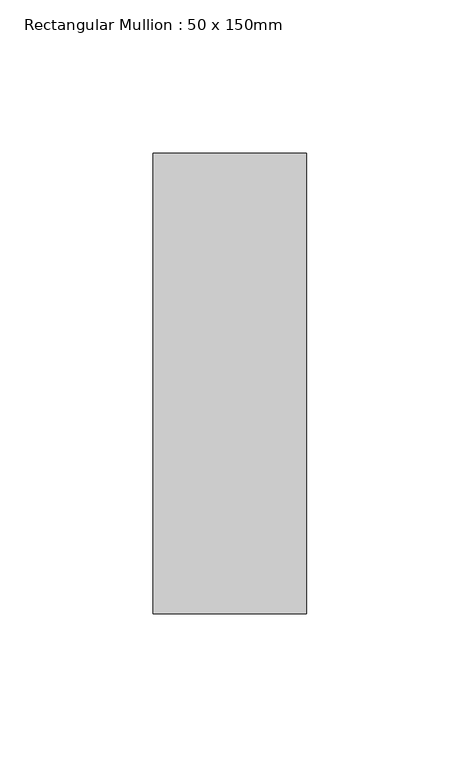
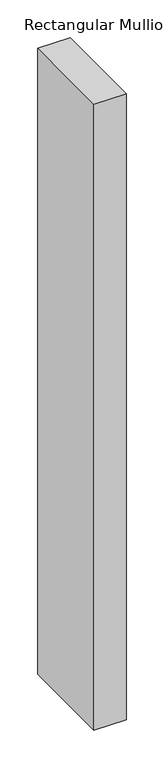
"""IFC4 building model written with IfcOpenShell, lengths in millimetres: member geometry, Rectangular Mullion : 50 x 150mm."""

from ifc_helpers import new_model, si_unit, frame, origin, place, context, project, spatial, polyline, outline, extrude, source, transform, mapped, element, save


def rectangular_mullion_50_x_150mm_c2a96b6b(model_context):
    return source(origin(), model_context, "Body", "SweptSolid", [
        extrude(outline(polyline([(0.0, 75.0), (0.0, -75.0), (-50.0, -75.0), (-50.0, 75.0), (0.0, 75.0)])), frame((0.0, 0.0, -1017.5000016), z_axis=(0.0, 0.0, 1.0), x_axis=(1.0, 0.0, 0.0)), (0.0, 0.0, 1.0), 1017.5000016),
    ])


if __name__ == "__main__":
    model = new_model("IFC4")
    model_context = context("Model", 3, world=origin())
    ifc_project = project(units=[si_unit("LENGTHUNIT", "METRE", prefix="MILLI")], contexts=[model_context])
    site = spatial("IfcSite", under=ifc_project)
    building = spatial("IfcBuilding", under=site)
    placement = place(None, origin())
    rectangular_mullion_50_x_150mm_shape = rectangular_mullion_50_x_150mm_c2a96b6b(model_context)
    element("IfcMember", 1, ObjectType="Rectangular Mullion : 50 x 150mm", at=placement, inside=building, context=model_context, shape_type="MappedRepresentation", body=[
        mapped(rectangular_mullion_50_x_150mm_shape, transform((0.0, 0.0, 0.0), x_axis=(1.0, 0.0, 0.0), y_axis=(0.0, 1.0, 0.0), z_axis=(0.0, 0.0, 1.0))),
    ])
    save(model, "model.ifc")
